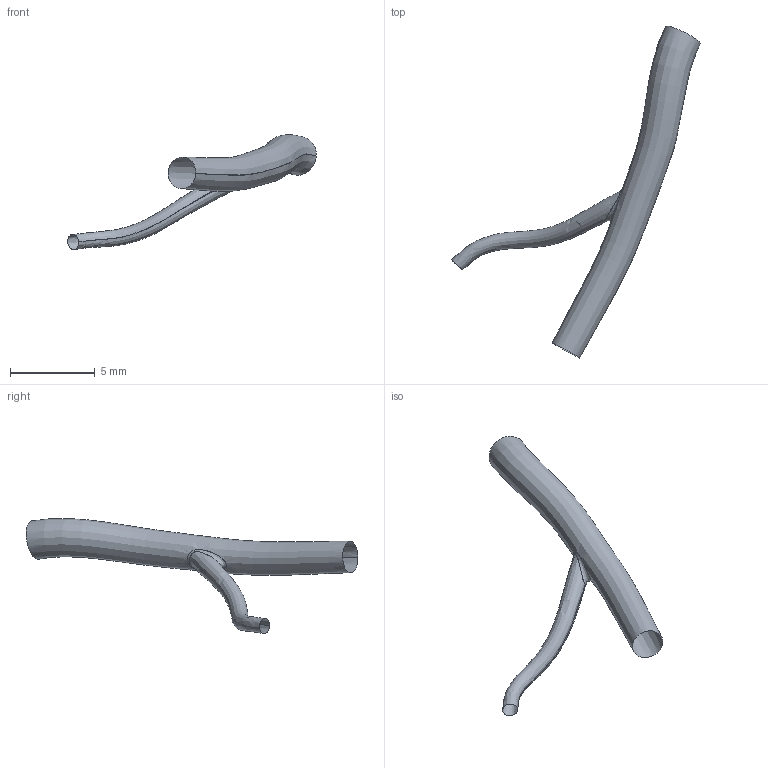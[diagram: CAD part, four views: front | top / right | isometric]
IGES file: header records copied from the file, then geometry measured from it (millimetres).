
Global section: file name: C:\Documents and Settings\Administrator\Desktop\FDA-Pig\Domestic RCA\Pig_000003\pda.ed.igs; native system: Rhinoceros ( May 19 2006 ); preprocessor: Trout Lake IGES 012 May 19 2006; date: 111205.184831; units: centimetre
Bounding box: 14.64 x 19.55 x 6.77 mm (x, y, z)
Surface area: 165.5 mm2 (no closed solid volume)
Topology: 0 solids, 0 shells, 3 faces, 37 edges, 34 vertices
Faces by surface type: bspline 3
